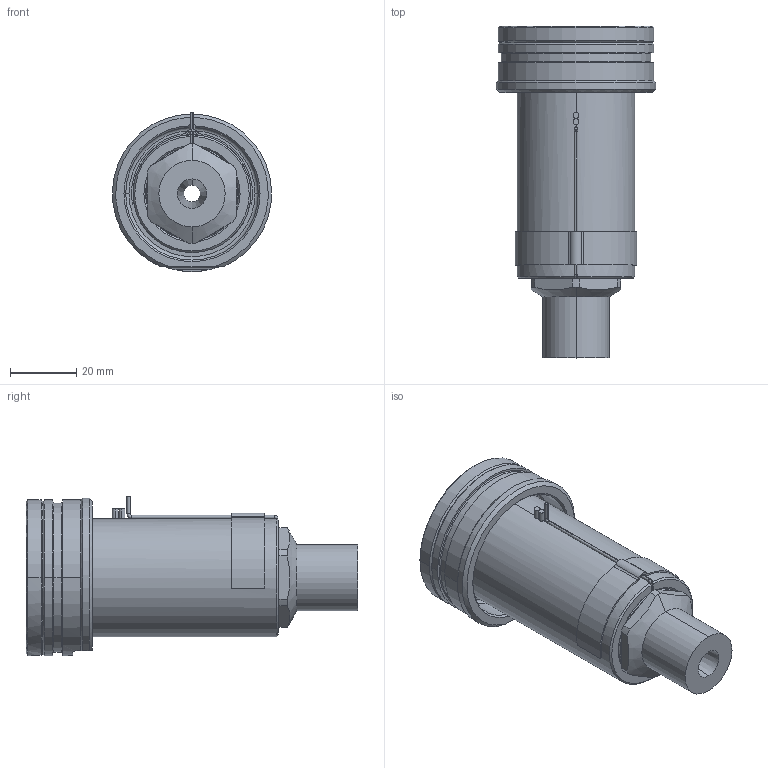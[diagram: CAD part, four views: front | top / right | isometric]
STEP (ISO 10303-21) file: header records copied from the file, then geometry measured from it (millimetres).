
FILE_DESCRIPTION((''),'2;1');
FILE_NAME('EO16_VG-ST_ESG_070_SW','2024-02-19T12:57:02',('sundharh'),(''),'CREO PARAMETRIC BY PTC INC, 2023154','CREO PARAMETRIC BY PTC INC, 2023154','');
FILE_SCHEMA(('CONFIG_CONTROL_DESIGN'));
Length unit declared in the file: millimetre
Products named in the file (1): EO16_VG-ST_ESG_070_SW
Bounding box: 47.97 x 100 x 48 mm (x, y, z)
Volume: 80486.3 mm3; surface area: 22501.6 mm2
Topology: 1 solids, 1 shells, 169 faces, 418 edges, 256 vertices
Faces by surface type: cylinder 64, plane 45, cone 35, torus 14, bspline 9, sphere 2
Entity records: 5756 total; most frequent: CARTESIAN_POINT 1670, DIRECTION 906, ORIENTED_EDGE 824, EDGE_CURVE 412, AXIS2_PLACEMENT_3D 374, VERTEX_POINT 256, CIRCLE 214, EDGE_LOOP 184
